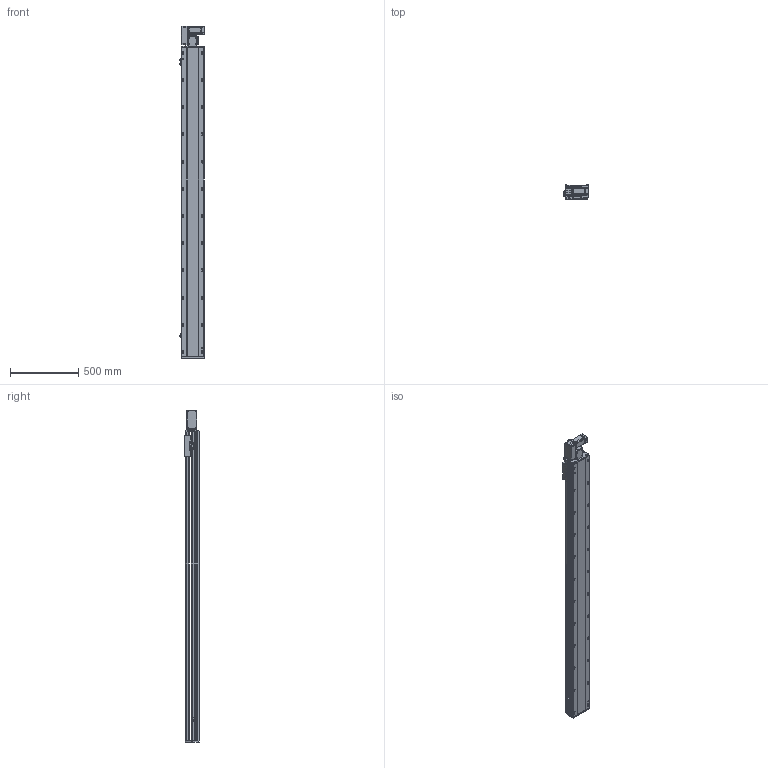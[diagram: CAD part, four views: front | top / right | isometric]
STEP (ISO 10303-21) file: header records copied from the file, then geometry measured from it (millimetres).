
FILE_DESCRIPTION (( 'STEP AP214' ), '1' );
FILE_NAME ('RTB17S-XX-2000-L-M40-C4.STEP', '2025-12-11T05:50:58', ( '' ), ( '' ), 'SwSTEP 2.0', 'SolidWorks 2018', '' );
FILE_SCHEMA (( 'AUTOMOTIVE_DESIGN' ));
Length unit declared in the file: millimetre
Products named in the file (14): RTB17S-L-皮带座装配-400W^RTB17S-XX-XX-L-M40-C4（方程式）; RTB17S-L-007上盖^RTB17S-XX-XX-L-M40-C4（方程式）; RTB14-L-017P^RTB17S-L-皮带座装配-400W_RTB17S-XX-XX-L-M40-C4（方程式）; OMRON EE-SX672 传感器^RTB17S-XX-XX-L-M40-C4（方程式）; RTB14-L-018P^RTB17S-L-皮带座装配-400W_RTB17S-XX-XX-L-M40-C4（方程式）; RTB17S-XX-2000-L-M40-C4; RTB17S-L-004丝杆螺母连接座^RTB17S-XX-XX-L-M40-C4（方程式）; RTH13-BL-012感应片外置^RTB17S-XX-XX-L-M40-C4（方程式）; 400W伺服电机^RTB17S-XX-XX-L-M40-C4（方程式）; RTB17-R-011底座^RTB17S-XX-XX-L-M40-C4（方程式）; RTB14-L-008-M20--电机板^RTB17S-L-皮带座装配-400W_RTB17S-XX-XX-L-M40-C4（方程式）; RTB14-L-005P--轴承塑胶压盖^RTB17S-L-皮带座装配-400W_RTB17S-XX-XX-L-M40-C4（方程式）; RTB17S-L-001侧面板^RTB17S-XX-XX-L-M40-C4（方程式）; RMP17S-L-014-T20--皮带座^RTB17S-L-皮带座装配-400W_RTB17S-XX-XX-L-M40-C4（方程式）
Assembly tree (16 placements, depth 3):
  RTB17S-XX-2000-L-M40-C4
    RTB17-R-011底座^RTB17S-XX-XX-L-M40-C4（方程式）
    RTB17S-L-007上盖^RTB17S-XX-XX-L-M40-C4（方程式）
    OMRON EE-SX672 传感器^RTB17S-XX-XX-L-M40-C4（方程式）  x3
    RTB17S-L-001侧面板^RTB17S-XX-XX-L-M40-C4（方程式）
    400W伺服电机^RTB17S-XX-XX-L-M40-C4（方程式）
    RTB17S-L-004丝杆螺母连接座^RTB17S-XX-XX-L-M40-C4（方程式）
    RTH13-BL-012感应片外置^RTB17S-XX-XX-L-M40-C4（方程式）
    RTB17S-L-皮带座装配-400W^RTB17S-XX-XX-L-M40-C4（方程式）
      RMP17S-L-014-T20--皮带座^RTB17S-L-皮带座装配-400W_RTB17S-XX-XX-L-M40-C4（方程式）
      RTB14-L-005P--轴承塑胶压盖^RTB17S-L-皮带座装配-400W_RTB17S-XX-XX-L-M40-C4（方程式）
      RTB14-L-008-M20--电机板^RTB17S-L-皮带座装配-400W_RTB17S-XX-XX-L-M40-C4（方程式）
      RTB14-L-017P^RTB17S-L-皮带座装配-400W_RTB17S-XX-XX-L-M40-C4（方程式）  x2
      RTB14-L-018P^RTB17S-L-皮带座装配-400W_RTB17S-XX-XX-L-M40-C4（方程式）
Bounding box: 186 x 108 x 2441 mm (x, y, z)
Volume: 20531891.8 mm3; surface area: 2386456.9 mm2
Topology: 15 solids, 15 shells, 2285 faces, 6357 edges, 4149 vertices
Faces by surface type: plane 1078, cylinder 759, bspline 301, cone 139, torus 8
Entity records: 66473 total; most frequent: CARTESIAN_POINT 18762, ORIENTED_EDGE 9558, DIRECTION 8846, EDGE_CURVE 4779, VERTEX_POINT 3137, AXIS2_PLACEMENT_3D 3067, VECTOR 2712, LINE 2712
